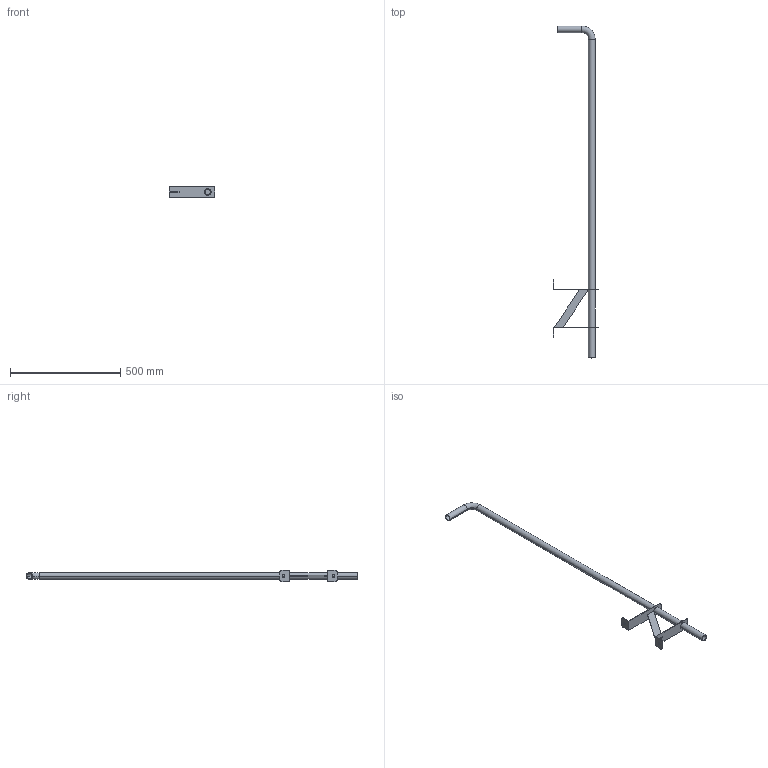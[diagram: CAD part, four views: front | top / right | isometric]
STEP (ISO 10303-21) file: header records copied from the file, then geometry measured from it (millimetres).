
FILE_DESCRIPTION((''),'2;1');
FILE_NAME('52332361','2024-12-18T11:30:19',('wep'),('HUBER SE'),'CREO PARAMETRIC BY PTC INC, 2022162','CREO PARAMETRIC BY PTC INC, 2022162','');
FILE_SCHEMA(('AUTOMOTIVE_DESIGN { 1 0 10303 214 1 1 1 1 }'));
Length unit declared in the file: millimetre
Products named in the file (1): 52332361
Bounding box: 207 x 1502.5 x 50 mm (x, y, z)
Volume: 432923.3 mm3; surface area: 346282.1 mm2
Topology: 1 solids, 2 shells, 58 faces, 137 edges, 88 vertices
Faces by surface type: cylinder 28, plane 26, torus 4
Entity records: 2204 total; most frequent: DIRECTION 313, CARTESIAN_POINT 285, ORIENTED_EDGE 274, EDGE_CURVE 137, AXIS2_PLACEMENT_3D 118, COLOUR_RGB 106, VERTEX_POINT 88, VECTOR 77
